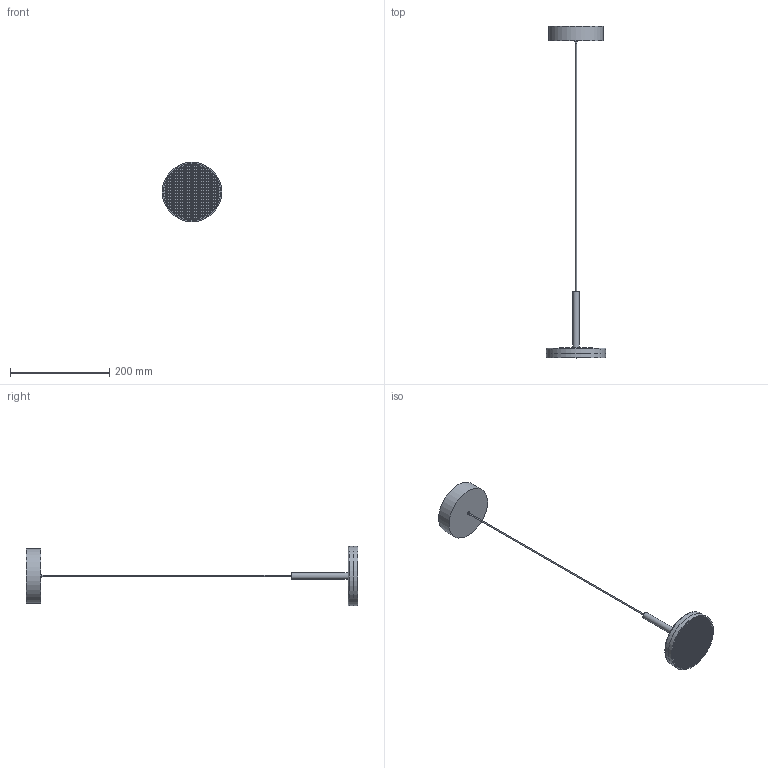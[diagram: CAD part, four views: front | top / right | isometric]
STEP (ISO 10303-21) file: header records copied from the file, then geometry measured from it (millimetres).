
FILE_DESCRIPTION (( 'STEP AP214' ), '1' );
FILE_NAME ('CORVUS-C945002.STEP', '2026-01-13T08:59:06', ( '' ), ( '' ), 'SwSTEP 2.0', 'SolidWorks 2025', '' );
FILE_SCHEMA (( 'AUTOMOTIVE_DESIGN' ));
Length unit declared in the file: millimetre
Products named in the file (1): CORVUS-C945002
Bounding box: 120 x 670 x 120 mm (x, y, z)
Volume: 524619.5 mm3; surface area: 122776.6 mm2
Topology: 7 solids, 7 shells, 5579 faces, 16684 edges, 11122 vertices
Faces by surface type: plane 5567, cylinder 10, torus 2
Full cylindrical faces by diameter (mm): 2.2 x1, 4 x1, 6.5 x1, 13 x1, 110 x1, 115 x3, 120 x2
Entity records: 187441 total; most frequent: CARTESIAN_POINT 33374, ORIENTED_EDGE 33344, DIRECTION 27854, EDGE_CURVE 16672, VECTOR 16650, LINE 16650, VERTEX_POINT 11122, EDGE_LOOP 7444
